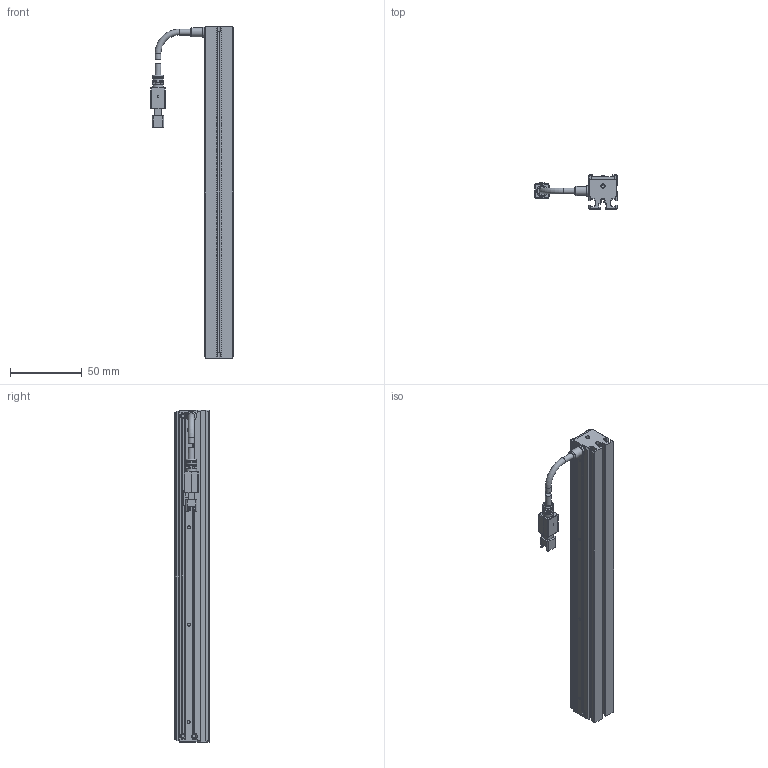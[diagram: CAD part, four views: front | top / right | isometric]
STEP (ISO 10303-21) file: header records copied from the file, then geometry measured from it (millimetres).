
FILE_DESCRIPTION (( 'STEP AP203' ), '1' );
FILE_NAME ('OPT-ULI23220-UV-V1.0U 尨砩芞.STEP', '2024-12-10T10:52:03', ( '' ), ( '' ), 'SwSTEP 2.0', 'SolidWorks 2016', '' );
FILE_SCHEMA (( 'CONFIG_CONTROL_DESIGN' ));
Length unit declared in the file: millimetre
Products named in the file (1): OPT-ULI23220-UV-V1.0U 尨砩芞
Bounding box: 57.6 x 24 x 232 mm (x, y, z)
Volume: 90572.3 mm3; surface area: 42193.7 mm2
Topology: 8 solids, 18 shells, 635 faces, 1625 edges, 1044 vertices
Faces by surface type: plane 432, cylinder 144, cone 30, bspline 21, torus 8
Full cylindrical faces by diameter (mm): 1.1 x2, 1.4 x4, 1.6 x9, 2 x15, 2.4 x7, 2.5 x2, 2.6 x2, 3 x2, 3.5 x1, 4.1 x4, 5.8 x1, 6.5 x1, 7 x1, 7.5 x1
Entity records: 19123 total; most frequent: CARTESIAN_POINT 4369, ORIENTED_EDGE 2990, DIRECTION 2935, EDGE_CURVE 1495, VECTOR 1045, LINE 1045, VERTEX_POINT 1003, AXIS2_PLACEMENT_3D 945
